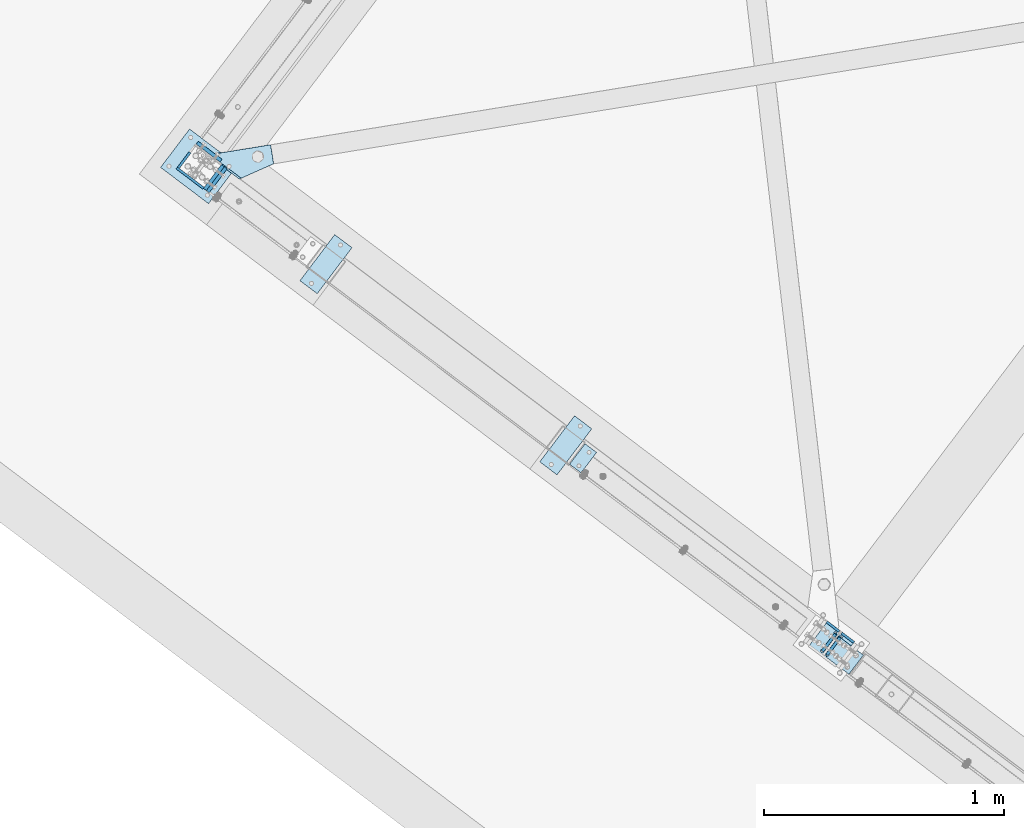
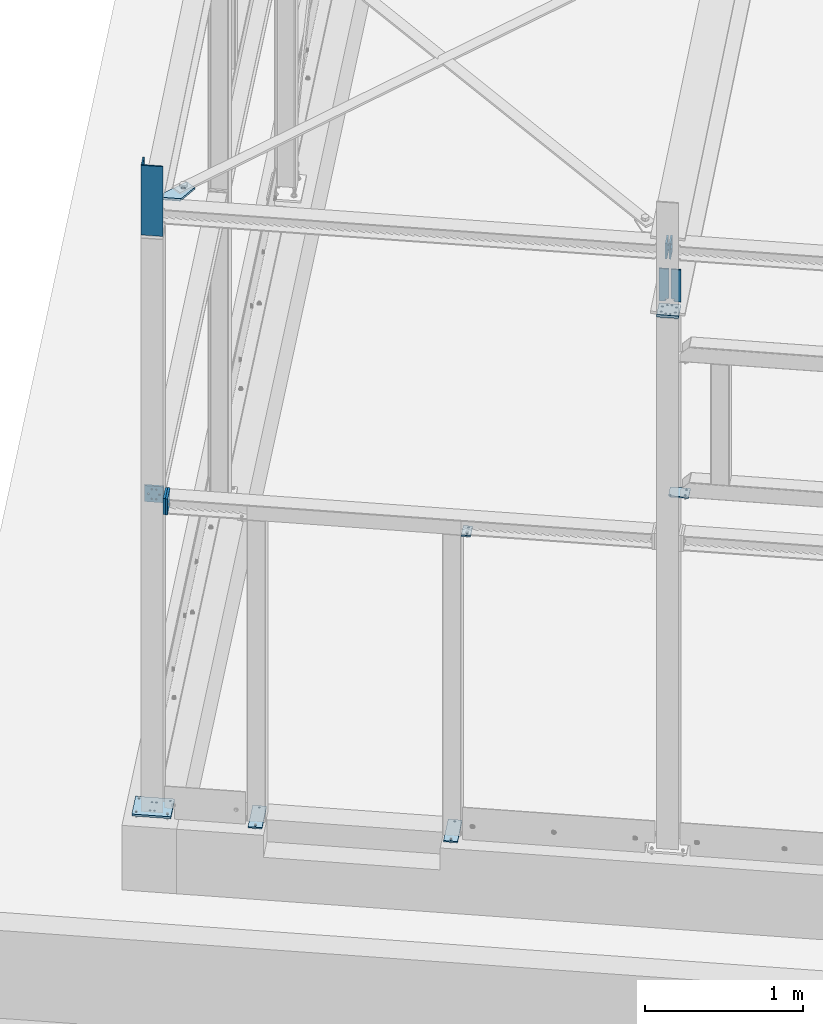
# One storey, part 51 of 476: 16 plates, 59 openings.
"""IFC2X3 building model written with IfcOpenShell, lengths in millimetres."""

import ifcopenshell
import ifcopenshell.guid

model = None  # the IFC model being written
_history = None  # IfcOwnerHistory: only IFC2X3 demands one
_inside = {}  # id of a spatial element -> (the spatial element, [elements in it])
_under = {}  # id of a project, library or spatial element -> (it, [spatial elements below it])
_declared = {}  # id of a project -> (the project, [libraries it declares])
_typed = {}  # id of a type object -> (the type object, [elements of that type])
_made_of = {}  # id of a material, layer set ... -> (it, [elements and type objects made of it])


def new_model(schema):
    """Start an empty IFC model of exactly this schema.

    Asked for "IFC4X3", IfcOpenShell would pick the latest addendum, in which some entities
    have other attributes; the version numbers below select the first issue.
    IFC2X3 requires an IfcOwnerHistory on every rooted entity: one is made here for all.
    """
    global model, _history
    if schema == "IFC4X3":
        model = ifcopenshell.file(schema_version=(4, 3, 0, 0))
    else:
        model = ifcopenshell.file(schema=schema)
    _inside.clear()
    _under.clear()
    _declared.clear()
    _typed.clear()
    _made_of.clear()
    _history = None
    if model.schema == "IFC2X3":
        org = make("IfcOrganization", Name="unknown")
        user = make(
            "IfcPersonAndOrganization",
            ThePerson=make("IfcPerson", FamilyName="unknown"),
            TheOrganization=org,
        )
        app = make(
            "IfcApplication",
            ApplicationDeveloper=org,
            Version="unknown",
            ApplicationFullName="unknown",
            ApplicationIdentifier="unknown",
        )
        _history = make(
            "IfcOwnerHistory",
            OwningUser=user,
            OwningApplication=app,
            ChangeAction="ADDED",
            CreationDate=0,
        )
    return model


def make(cls, **values):
    """One entity of the class cls with the attributes given. An attribute that is None is left unset."""
    return model.create_entity(
        cls, **{name: value for name, value in values.items() if value is not None}
    )


def entity(cls, *values):
    """Any entity or typed value of the class cls, its attributes in the order of the schema. None: left unset."""
    e = model.create_entity(cls)
    for i, value in enumerate(values):
        if value is not None:
            e[i] = value
    return e


def rooted(cls, **values):
    """An entity with a GlobalId (a new one), such as an element, a storey or a relation."""
    return make(cls, GlobalId=ifcopenshell.guid.new(), OwnerHistory=_history, **values)


def si_unit(unit_type, name, prefix=None):
    """IfcSIUnit, for example si_unit("LENGTHUNIT", "METRE", prefix="MILLI")."""
    return make("IfcSIUnit", UnitType=unit_type, Prefix=prefix, Name=name)


def converted_unit(unit_type, name, factor, base, dimensions=None, offset=None):
    """IfcConversionBasedUnit, such as the inch: factor (a typed value) times the base unit."""
    return make(
        "IfcConversionBasedUnit"
        if offset is None
        else "IfcConversionBasedUnitWithOffset",
        ConversionOffset=offset,
        Dimensions=None
        if dimensions is None
        else entity("IfcDimensionalExponents", *dimensions),
        UnitType=unit_type,
        Name=name,
        ConversionFactor=make(
            "IfcMeasureWithUnit", ValueComponent=factor, UnitComponent=base
        ),
    )


def assignment(units):
    """IfcUnitAssignment: the units of a project."""
    return None if units is None else make("IfcUnitAssignment", Units=units)


def point(xyz):
    """IfcCartesianPoint."""
    return None if xyz is None else make("IfcCartesianPoint", Coordinates=xyz)


def direction(xyz):
    """IfcDirection."""
    return None if xyz is None else make("IfcDirection", DirectionRatios=xyz)


def frame(location, z_axis=None, x_axis=None):
    """IfcAxis2Placement3D, a coordinate frame: its origin and axes. An axis left out is left unset."""
    return make(
        "IfcAxis2Placement3D",
        Location=point(location),
        Axis=direction(z_axis),
        RefDirection=direction(x_axis),
    )


def frame_2d(location, x_axis=None):
    """IfcAxis2Placement2D, a coordinate frame in the plane: its origin and x axis."""
    return make(
        "IfcAxis2Placement2D", Location=point(location), RefDirection=direction(x_axis)
    )


def origin():
    """The frame at (0, 0, 0) with its axes left unset."""
    return frame((0.0, 0.0, 0.0))


def origin_with_axes():
    """The frame at (0, 0, 0) with the z axis (0, 0, 1) and the x axis (1, 0, 0) written out."""
    return frame((0.0, 0.0, 0.0), z_axis=(0.0, 0.0, 1.0), x_axis=(1.0, 0.0, 0.0))


def origin_2d_with_axis():
    """The frame at (0, 0) in the plane with the x axis (1, 0) written out."""
    return frame_2d((0.0, 0.0), x_axis=(1.0, 0.0))


def place(relative_to, where):
    """IfcLocalPlacement: puts the frame where relative to a parent placement (None: the world)."""
    return make(
        "IfcLocalPlacement", PlacementRelTo=relative_to, RelativePlacement=where
    )


def context(
    kind, dimensions, precision=None, world=None, true_north=None, identifier=None
):
    """IfcGeometricRepresentationContext, for example the 3D "Model" context."""
    return make(
        "IfcGeometricRepresentationContext",
        ContextIdentifier=identifier,
        ContextType=kind,
        CoordinateSpaceDimension=dimensions,
        Precision=precision,
        WorldCoordinateSystem=world,
        TrueNorth=true_north,
    )


def project(units=None, contexts=None):
    """IfcProject with its units and contexts."""
    return rooted(
        "IfcProject",
        Name="project",
        RepresentationContexts=contexts,
        UnitsInContext=assignment(units),
    )


def spatial(cls, under=None, at=None, **own):
    """A site, building, storey or space (cls), placed at a placement, below another one or the project."""
    s = rooted(cls, ObjectPlacement=at, **own)
    if under is not None:
        _under.setdefault(under.id(), (under, []))[1].append(s)
    return s


def polyline(points):
    """IfcPolyline through the points."""
    return make("IfcPolyline", Points=[point(p) for p in points])


def circle_curve(where, radius):
    """IfcCircle in the frame where."""
    return make("IfcCircle", Position=where, Radius=radius)


def line_curve(start, along, magnitude):
    """IfcLine from a point along a vector."""
    return make(
        "IfcLine",
        Pnt=point(start),
        Dir=make("IfcVector", Orientation=direction(along), Magnitude=magnitude),
    )


def trimmed(basis, trim1, trim2, sense, master):
    """IfcTrimmedCurve: the piece of a basis curve between two trims."""
    return make(
        "IfcTrimmedCurve",
        BasisCurve=basis,
        Trim1=trim1,
        Trim2=trim2,
        SenseAgreement=sense,
        MasterRepresentation=master,
    )


def segment(curve, same_sense, transition):
    """IfcCompositeCurveSegment."""
    return make(
        "IfcCompositeCurveSegment",
        Transition=transition,
        SameSense=same_sense,
        ParentCurve=curve,
    )


def composite_curve(segments, self_intersect=None):
    """IfcCompositeCurve: segments joined end to end."""
    return make("IfcCompositeCurve", Segments=segments, SelfIntersect=self_intersect)


def profile(cls, at=None, kind="AREA", **sizes):
    """A parametric profile (cls). Its sizes go by their IFC names, for example OverallWidth=200.0."""
    return make(cls, ProfileType=kind, Position=at, **sizes)


def circle(**sizes):
    """IfcCircleProfileDef."""
    return profile("IfcCircleProfileDef", **sizes)


def outline(outer, holes=None, kind="AREA"):
    """IfcArbitraryClosedProfileDef: a profile drawn as a closed curve; with holes, ...WithVoids."""
    if holes is None:
        return make("IfcArbitraryClosedProfileDef", ProfileType=kind, OuterCurve=outer)
    return make(
        "IfcArbitraryProfileDefWithVoids",
        ProfileType=kind,
        OuterCurve=outer,
        InnerCurves=holes,
    )


def extrude(swept, where, along, depth):
    """IfcExtrudedAreaSolid: the profile swept, set in the frame where, extruded along a direction by depth."""
    return make(
        "IfcExtrudedAreaSolid",
        SweptArea=swept,
        Position=where,
        ExtrudedDirection=direction(along),
        Depth=depth,
    )


def shape(context_of_items, identifier, shape_type, items):
    """IfcShapeRepresentation: the items that make up one representation, for example the "Body"."""
    return make(
        "IfcShapeRepresentation",
        ContextOfItems=context_of_items,
        RepresentationIdentifier=identifier,
        RepresentationType=shape_type,
        Items=items,
    )


def material(Name=None, Category=None):
    """IfcMaterial."""
    return make("IfcMaterial", Name=Name, Category=Category)


def layer(
    of_material, thickness, ventilated=None, Name=None, Category=None, Priority=None
):
    """IfcMaterialLayer: one layer of a wall or slab, of a material (None: an air gap)."""
    return make(
        "IfcMaterialLayer",
        Material=of_material,
        LayerThickness=thickness,
        IsVentilated=ventilated,
        Name=Name,
        Category=Category,
        Priority=Priority,
    )


def layer_set(layers, Name=None):
    """IfcMaterialLayerSet."""
    return make("IfcMaterialLayerSet", MaterialLayers=layers, LayerSetName=Name)


def made_of(thing, what):
    """Note that an element or type object is made of a material, layer set ...; save() writes the relation."""
    if what is not None:
        _made_of.setdefault(what.id(), (what, []))[1].append(thing)
    return thing


def element(
    cls,
    number,
    at=None,
    inside=None,
    cuts=None,
    type_object=None,
    material=None,
    context=None,
    identifier="Body",
    shape_type=None,
    held_by="IfcProductDefinitionShape",
    body=None,
    shapes=None,
    **own,
):
    """One element of the class cls, such as IfcWall. Its Tag is "e" and its number.

    at: its placement. inside: the storey or other place that contains it. cuts: it is an
    opening in that element (IfcRelVoidsElement). A single representation is given by context,
    identifier, shape_type and body (its items); several are given by shapes. held_by: the class
    of the entity that holds the representations. save() writes the other relations.
    """
    e = rooted(cls, Tag="e%d" % number, ObjectPlacement=at, **own)
    if body is not None:
        shapes = [shape(context, identifier, shape_type, body)]
    if shapes is not None:
        e.Representation = make(held_by, Representations=shapes)
    if inside is not None:
        _inside.setdefault(inside.id(), (inside, []))[1].append(e)
    if cuts is not None:
        rooted(
            "IfcRelVoidsElement", RelatingBuildingElement=cuts, RelatedOpeningElement=e
        )
    if type_object is not None:
        _typed.setdefault(type_object.id(), (type_object, []))[1].append(e)
    return made_of(e, material)


def aggregate(whole, parts):
    """IfcRelAggregates: a whole, such as a stair, and the parts it consists of."""
    return rooted("IfcRelAggregates", RelatingObject=whole, RelatedObjects=parts)


def save(model, path):
    """Write the relations noted so far, then the file.

    IfcRelAggregates (storeys below a building ...), IfcRelContainedInSpatialStructure (elements
    in a storey), IfcRelDefinesByType, IfcRelAssociatesMaterial and IfcRelDeclares: one each for
    every whole, place, type object, material and project.
    """
    for whole, parts in _under.values():
        aggregate(whole, parts)
    for where, things in _inside.values():
        rooted(
            "IfcRelContainedInSpatialStructure",
            RelatedElements=things,
            RelatingStructure=where,
        )
    for kind, things in _typed.values():
        rooted("IfcRelDefinesByType", RelatedObjects=things, RelatingType=kind)
    for what, things in _made_of.values():
        rooted("IfcRelAssociatesMaterial", RelatedObjects=things, RelatingMaterial=what)
    for by, libraries in _declared.values():
        rooted("IfcRelDeclares", RelatingContext=by, RelatedDefinitions=libraries)
    model.write(path)


model = new_model("IFC2X3")

# Units and contexts
model_context = context("Model", 3, precision=1e-09, world=origin_with_axes())
ifc_project = project(units=[si_unit("LENGTHUNIT", "METRE", prefix="MILLI"), si_unit("AREAUNIT", "SQUARE_METRE"), si_unit("VOLUMEUNIT", "CUBIC_METRE"), converted_unit("PLANEANGLEUNIT", "DEGREE", entity("IfcPlaneAngleMeasure", 0.01745329), si_unit("PLANEANGLEUNIT", "RADIAN"), dimensions=[0, 0, 0, 0, 0, 0, 0])], contexts=[model_context])

# Site, building, storey
site_placement = place(None, origin_with_axes())
site = spatial("IfcSite", under=ifc_project, at=site_placement, Name="mKR Teilneubau & Sanierung BA1 - Ostfildern", CompositionType="ELEMENT")
building_placement = place(site_placement, origin_with_axes())
building = spatial("IfcBuilding", under=site, at=building_placement, Name="Struktur 1", CompositionType="ELEMENT")
storey_placement = place(building_placement, origin_with_axes())
storey = spatial("IfcBuildingStorey", under=building, at=storey_placement, Name="Default Storey", CompositionType="ELEMENT", Elevation=0.0)

# Plate, openings
ifc_material = material(Name="S235JR")
ifc_layer_1 = layer(ifc_material, 15.0)
ifc_layer_set_1 = layer_set([ifc_layer_1], Name="S235JR")
plate_1_placement = place(None, frame((295.248541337, 69.299327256, 5216.096658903), z_axis=(0.018098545, 0.02396011, -0.999549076), x_axis=(0.602462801, 0.797581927, 0.030027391)))
plate_1 = element("IfcPlate", 1, at=plate_1_placement, inside=storey, material=ifc_layer_set_1, Name="-", ObjectType="-", context=model_context, shape_type="SweptSolid", body=[
    extrude(outline(polyline([(0.0, 0.0), (16.761939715, 0.0), (192.636873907, 167.974256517), (137.382787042, 225.827096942), (1.572e-05, 149.999963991), (0.0, 0.0)])), origin_with_axes(), (0.0, 0.0, 1.0), 15.0),
])
opening_1_placement = place(plate_1_placement, frame((1.6183e-05, 154.416490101, 0.0), z_axis=(-1.05e-07, -1.0, 0.0), x_axis=(1.0, -1.05e-07, 0.0)))
element("IfcOpeningElement", 2, at=opening_1_placement, cuts=plate_1, ObjectType="Opening", context=model_context, shape_type="SweptSolid", body=[
    extrude(outline(polyline([(0.0, 0.0), (8.0, 0.0), (0.0, 8.0), (0.0, 0.0)])), origin(), (0.0, 0.0, 1.0), 154.437489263),
])
opening_2_placement = place(plate_1_placement, frame((132.106849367, 165.475673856, 15.499709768), z_axis=(7.613e-06, 7.271e-06, 1.0), x_axis=(1.0, 0.0, -7.613e-06)))
element("IfcOpeningElement", 3, at=opening_2_placement, cuts=plate_1, ObjectType="Opening", context=model_context, shape_type="SweptSolid", body=[
    extrude(circle(Radius=14.501, at=frame_2d((-10.486598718, -10.015500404), x_axis=(1.0, 0.0))), origin(), (0.0, 0.0, -1.0), 16.000000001),
])

# Plate, opening
ifc_layer_2 = layer(ifc_material, 10.0)
ifc_layer_set_2 = layer_set([ifc_layer_2], Name="S235JR")
plate_2_placement = place(None, frame((214.213128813, 86.949071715, 5472.548796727), z_axis=(0.798017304, -0.602634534, 0.0), x_axis=(-0.602634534, -0.798017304, 0.0)))
plate_2 = element("IfcPlate", 4, at=plate_2_placement, inside=storey, material=ifc_layer_set_2, Name="-", ObjectType="-", context=model_context, shape_type="SweptSolid", body=[
    extrude(outline(polyline([(0.0, -75.000000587), (80.0, -75.000000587), (80.0, 200.0), (0.0, 197.595559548), (0.0, -75.000000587)])), origin_with_axes(), (0.0, 0.0, -1.0), 10.0),
])
opening_3_placement = place(plate_2_placement, frame((80.0, 200.0, 0.01), z_axis=(0.0, 0.0, 1.0), x_axis=(-0.999548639, -0.03004194, 0.0)))
element("IfcOpeningElement", 5, at=opening_3_placement, cuts=plate_2, ObjectType="Opening", context=model_context, shape_type="SweptSolid", body=[
    extrude(outline(polyline([(0.0, 0.0), (20.0, 0.0), (0.600838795, 19.990972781), (0.0, 0.0)])), origin(), (0.0, 0.0, -1.0), 10.02),
])

# Plate, openings
plate_3_placement = place(None, frame((1918.732120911, -1167.987627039, 2855.0), z_axis=(0.0, 0.0, 1.0), x_axis=(-0.797941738, 0.602734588, 0.0)))
plate_3 = element("IfcPlate", 6, at=plate_3_placement, inside=storey, material=ifc_layer_set_2, Name="Endplate", ObjectType="Endplate", context=model_context, shape_type="SweptSolid", body=[
    extrude(outline(polyline([(20.0, 2.5), (80.0, 2.5), (80.0, 109.5), (20.0, 109.5), (20.0, 2.5)])), origin_with_axes(), (0.0, 0.0, -1.0), 10.0),
])
opening_4_placement = place(plate_3_placement, frame((38.499, 21.0, -10.5), z_axis=(0.0, 0.0, -1.0), x_axis=(-1.0, 0.0, 0.0)))
element("IfcOpeningElement", 7, at=opening_4_placement, cuts=plate_3, ObjectType="Opening", context=model_context, shape_type="SweptSolid", body=[
    extrude(circle(Radius=6.501, at=frame_2d((-6.501, 0.0), x_axis=(1.0, 0.0))), origin(), (0.0, 0.0, -1.0), 11.0),
])
opening_5_placement = place(plate_3_placement, frame((38.499, 91.0, -10.5), z_axis=(0.0, 0.0, -1.0), x_axis=(-1.0, 0.0, 0.0)))
element("IfcOpeningElement", 8, at=opening_5_placement, cuts=plate_3, ObjectType="Opening", context=model_context, shape_type="SweptSolid", body=[
    extrude(circle(Radius=6.501, at=frame_2d((-6.501, 0.0), x_axis=(1.0, 0.0))), origin(), (0.0, 0.0, -1.0), 11.0),
])

plate_4_placement = place(None, frame((208.458938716, 187.173084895, 540.0), z_axis=(0.0, 0.0, -1.0), x_axis=(0.797941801, -0.602734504, 0.0)))
plate_4 = element("IfcPlate", 9, at=plate_4_placement, inside=storey, material=ifc_layer_set_1, Name="Baseplate", ObjectType="Baseplate", context=model_context, shape_type="SweptSolid", body=[
    extrude(outline(polyline([(0.0, 0.0), (250.0, 0.0), (250.0, 200.0), (0.0, 200.0), (0.0, 0.0)])), origin_with_axes(), (0.0, 0.0, 1.0), 15.0),
])
opening_6_placement = place(plate_4_placement, frame((139.75, 146.0, 15.5), z_axis=(0.0, 0.0, -1.0), x_axis=(0.0, 1.0, 0.0)))
element("IfcOpeningElement", 10, at=opening_6_placement, cuts=plate_4, ObjectType="Opening", context=model_context, shape_type="SweptSolid", body=[
    extrude(circle(Radius=6.001, at=origin_2d_with_axis()), origin(), (0.0, 0.0, 1.0), 16.0),
])
opening_7_placement = place(plate_4_placement, frame((139.75, 54.0, 15.5), z_axis=(0.0, 0.0, -1.0), x_axis=(0.0, 1.0, 0.0)))
element("IfcOpeningElement", 11, at=opening_7_placement, cuts=plate_4, ObjectType="Opening", context=model_context, shape_type="SweptSolid", body=[
    extrude(circle(Radius=6.001, at=origin_2d_with_axis()), origin(), (0.0, 0.0, 1.0), 16.0),
])
opening_8_placement = place(plate_4_placement, frame((110.25, 54.0, 15.5), z_axis=(0.0, 0.0, -1.0), x_axis=(0.0, 1.0, 0.0)))
element("IfcOpeningElement", 12, at=opening_8_placement, cuts=plate_4, ObjectType="Opening", context=model_context, shape_type="SweptSolid", body=[
    extrude(circle(Radius=6.001, at=origin_2d_with_axis()), origin(), (0.0, 0.0, 1.0), 16.0),
])
opening_9_placement = place(plate_4_placement, frame((110.25, 146.0, 15.5), z_axis=(0.0, 0.0, -1.0), x_axis=(0.0, 1.0, 0.0)))
element("IfcOpeningElement", 13, at=opening_9_placement, cuts=plate_4, ObjectType="Opening", context=model_context, shape_type="SweptSolid", body=[
    extrude(circle(Radius=6.001, at=origin_2d_with_axis()), origin(), (0.0, 0.0, 1.0), 16.0),
])
opening_10_placement = place(plate_4_placement, frame((125.0, 100.0, 15.5), z_axis=(0.0, 0.0, -1.0), x_axis=(1.0, 0.0, 0.0)))
element("IfcOpeningElement", 14, at=opening_10_placement, cuts=plate_4, ObjectType="Opening", context=model_context, shape_type="SweptSolid", body=[
    extrude(circle(Radius=6.001, at=frame_2d((100.0, 75.0), x_axis=(1.0, 0.0))), origin(), (0.0, 0.0, 1.0), 16.0),
])
opening_11_placement = place(plate_4_placement, frame((125.0, 100.0, 15.5), z_axis=(0.0, 0.0, -1.0), x_axis=(1.0, 0.0, 0.0)))
element("IfcOpeningElement", 15, at=opening_11_placement, cuts=plate_4, ObjectType="Opening", context=model_context, shape_type="SweptSolid", body=[
    extrude(circle(Radius=6.001, at=frame_2d((-100.0, 75.0), x_axis=(1.0, 0.0))), origin(), (0.0, 0.0, 1.0), 16.0),
])
opening_12_placement = place(plate_4_placement, frame((125.0, 100.0, 15.5), z_axis=(0.0, 0.0, -1.0), x_axis=(1.0, 0.0, 0.0)))
element("IfcOpeningElement", 16, at=opening_12_placement, cuts=plate_4, ObjectType="Opening", context=model_context, shape_type="SweptSolid", body=[
    extrude(circle(Radius=6.001, at=frame_2d((100.0, -75.0), x_axis=(1.0, 0.0))), origin(), (0.0, 0.0, 1.0), 16.0),
])
opening_13_placement = place(plate_4_placement, frame((125.0, 100.0, 15.5), z_axis=(0.0, 0.0, -1.0), x_axis=(1.0, 0.0, 0.0)))
element("IfcOpeningElement", 17, at=opening_13_placement, cuts=plate_4, ObjectType="Opening", context=model_context, shape_type="SweptSolid", body=[
    extrude(circle(Radius=6.001, at=frame_2d((-100.0, -75.0), x_axis=(1.0, 0.0))), origin(), (0.0, 0.0, 1.0), 16.0),
])

plate_5_placement = place(None, frame((1736.846368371, -1251.165586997, 525.0), z_axis=(0.0, 0.0, -1.0), x_axis=(-0.797941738, 0.602734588, 0.0)))
plate_5 = element("IfcPlate", 18, at=plate_5_placement, inside=storey, material=ifc_layer_set_2, Name="Baseplate", ObjectType="Baseplate", context=model_context, shape_type="SweptSolid", body=[
    extrude(outline(polyline([(0.0, 0.0), (90.0, 0.0), (90.0, 240.0), (0.0, 240.0), (0.0, 0.0)])), origin_with_axes(), (0.0, 0.0, 1.0), 10.0),
])
opening_14_placement = place(plate_5_placement, frame((45.0, 120.0, 10.5), z_axis=(0.0, 0.0, -1.0), x_axis=(1.0, 0.0, 0.0)))
element("IfcOpeningElement", 19, at=opening_14_placement, cuts=plate_5, ObjectType="Opening", context=model_context, shape_type="SweptSolid", body=[
    extrude(circle(Radius=7.001, at=frame_2d((0.0, 100.0), x_axis=(1.0, 0.0))), origin(), (0.0, 0.0, 1.0), 11.0),
])
opening_15_placement = place(plate_5_placement, frame((45.0, 120.0, 10.5), z_axis=(0.0, 0.0, -1.0), x_axis=(1.0, 0.0, 0.0)))
element("IfcOpeningElement", 20, at=opening_15_placement, cuts=plate_5, ObjectType="Opening", context=model_context, shape_type="SweptSolid", body=[
    extrude(circle(Radius=7.001, at=frame_2d((0.0, -100.0), x_axis=(1.0, 0.0))), origin(), (0.0, 0.0, 1.0), 11.0),
])

plate_6_placement = place(None, frame((739.417481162, -497.746039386, 525.0), z_axis=(0.0, 0.0, -1.0), x_axis=(-0.797941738, 0.602734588, 0.0)))
plate_6 = element("IfcPlate", 21, at=plate_6_placement, inside=storey, material=ifc_layer_set_2, Name="Baseplate", ObjectType="Baseplate", context=model_context, shape_type="SweptSolid", body=[
    extrude(outline(polyline([(0.0, 0.0), (90.0, 0.0), (90.0, 240.0), (0.0, 240.0), (0.0, 0.0)])), origin_with_axes(), (0.0, 0.0, 1.0), 10.0),
])
opening_16_placement = place(plate_6_placement, frame((45.0, 120.0, 10.5), z_axis=(0.0, 0.0, -1.0), x_axis=(1.0, 0.0, 0.0)))
element("IfcOpeningElement", 22, at=opening_16_placement, cuts=plate_6, ObjectType="Opening", context=model_context, shape_type="SweptSolid", body=[
    extrude(circle(Radius=7.001, at=frame_2d((0.0, 100.0), x_axis=(1.0, 0.0))), origin(), (0.0, 0.0, 1.0), 11.0),
])
opening_17_placement = place(plate_6_placement, frame((45.0, 120.0, 10.5), z_axis=(0.0, 0.0, -1.0), x_axis=(1.0, 0.0, 0.0)))
element("IfcOpeningElement", 23, at=opening_17_placement, cuts=plate_6, ObjectType="Opening", context=model_context, shape_type="SweptSolid", body=[
    extrude(circle(Radius=7.001, at=frame_2d((0.0, -100.0), x_axis=(1.0, 0.0))), origin(), (0.0, 0.0, 1.0), 11.0),
])

plate_7_placement = place(None, frame((327.722409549, -28.236337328, 2912.000000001), z_axis=(-0.797941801, 0.602734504, 0.0), x_axis=(0.0, 0.0, -1.0)))
plate_7 = element("IfcPlate", 24, at=plate_7_placement, inside=storey, material=ifc_layer_set_1, Name="Endplate#1", ObjectType="Endplate#1", context=model_context, shape_type="SweptSolid", body=[
    extrude(outline(polyline([(-62.0, -62.0), (62.0, -62.0), (62.0, 62.0), (-62.0, 62.0), (-62.0, -62.0)])), origin_with_axes(), (0.0, 0.0, 1.0), 15.0),
])
opening_18_placement = place(plate_7_placement, frame((37.0, 14.5, 15.5), z_axis=(0.0, 0.0, -1.0), x_axis=(-1.0, 0.0, 0.0)))
element("IfcOpeningElement", 25, at=opening_18_placement, cuts=plate_7, ObjectType="Opening", context=model_context, shape_type="SweptSolid", body=[
    extrude(circle(Radius=6.001, at=origin_2d_with_axis()), origin(), (0.0, 0.0, 1.0), 16.0),
])
opening_19_placement = place(plate_7_placement, frame((-37.0, 14.5, 15.5), z_axis=(0.0, 0.0, -1.0), x_axis=(-1.0, 0.0, 0.0)))
element("IfcOpeningElement", 26, at=opening_19_placement, cuts=plate_7, ObjectType="Opening", context=model_context, shape_type="SweptSolid", body=[
    extrude(circle(Radius=6.001, at=origin_2d_with_axis()), origin(), (0.0, 0.0, 1.0), 16.0),
])
opening_20_placement = place(plate_7_placement, frame((-37.0, -14.5, 15.5), z_axis=(0.0, 0.0, -1.0), x_axis=(-1.0, 0.0, 0.0)))
element("IfcOpeningElement", 27, at=opening_20_placement, cuts=plate_7, ObjectType="Opening", context=model_context, shape_type="SweptSolid", body=[
    extrude(circle(Radius=6.001, at=origin_2d_with_axis()), origin(), (0.0, 0.0, 1.0), 16.0),
])
opening_21_placement = place(plate_7_placement, frame((37.0, -14.5, 15.5), z_axis=(0.0, 0.0, -1.0), x_axis=(-1.0, 0.0, 0.0)))
element("IfcOpeningElement", 28, at=opening_21_placement, cuts=plate_7, ObjectType="Opening", context=model_context, shape_type="SweptSolid", body=[
    extrude(circle(Radius=6.001, at=origin_2d_with_axis()), origin(), (0.0, 0.0, 1.0), 16.0),
])
opening_22_placement = place(plate_7_placement, frame((0.0, 30.0, 15.5), z_axis=(0.0, 0.0, -1.0), x_axis=(-1.0, 0.0, 0.0)))
element("IfcOpeningElement", 29, at=opening_22_placement, cuts=plate_7, ObjectType="Opening", context=model_context, shape_type="SweptSolid", body=[
    extrude(circle(Radius=7.001, at=origin_2d_with_axis()), origin(), (0.0, 0.0, 1.0), 16.0),
])
opening_23_placement = place(plate_7_placement, frame((0.0, -30.0, 15.5), z_axis=(0.0, 0.0, -1.0), x_axis=(0.0, -1.0, 0.0)))
element("IfcOpeningElement", 30, at=opening_23_placement, cuts=plate_7, ObjectType="Opening", context=model_context, shape_type="SweptSolid", body=[
    extrude(circle(Radius=7.001, at=origin_2d_with_axis()), origin(), (0.0, 0.0, 1.0), 16.0),
])

plate_8_placement = place(None, frame((303.784139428, -10.154323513, 2912.000000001), z_axis=(0.797941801, -0.602734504, 0.0), x_axis=(-0.602734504, -0.797941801, 0.0)))
plate_8 = element("IfcPlate", 31, at=plate_8_placement, inside=storey, material=ifc_layer_set_1, Name="T-plate", ObjectType="T-plate", context=model_context, shape_type="SweptSolid", body=[
    extrude(outline(polyline([(-62.0, -62.0), (62.0, -62.0), (62.0, 62.0), (-62.0, 62.0), (-62.0, -62.0)])), origin_with_axes(), (0.0, 0.0, 1.0), 15.0),
])
opening_24_placement = place(plate_8_placement, frame((29.999973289, 0.0, -0.5), z_axis=(0.0, 0.0, 1.0), x_axis=(0.0, -1.0, 0.0)))
element("IfcOpeningElement", 32, at=opening_24_placement, cuts=plate_8, ObjectType="Opening", context=model_context, shape_type="SweptSolid", body=[
    extrude(circle(Radius=7.001, at=origin_2d_with_axis()), origin(), (0.0, 0.0, 1.0), 16.0),
])
opening_25_placement = place(plate_8_placement, frame((-30.000026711, 0.0, -0.5), z_axis=(0.0, 0.0, 1.0), x_axis=(-1.0, 0.0, 0.0)))
element("IfcOpeningElement", 33, at=opening_25_placement, cuts=plate_8, ObjectType="Opening", context=model_context, shape_type="SweptSolid", body=[
    extrude(circle(Radius=7.001, at=origin_2d_with_axis()), origin(), (0.0, 0.0, 1.0), 16.0),
])

plate_9_placement = place(None, frame((294.258261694, 99.178932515, 2912.000000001), z_axis=(-0.602734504, -0.797941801, 0.0), x_axis=(0.0, 0.0, -1.0)))
plate_9 = element("IfcPlate", 34, at=plate_9_placement, inside=storey, material=ifc_layer_set_1, Name="Endplate#1", ObjectType="Endplate#1", context=model_context, shape_type="SweptSolid", body=[
    extrude(outline(polyline([(-62.0, -62.0), (62.0, -62.0), (62.0, 62.0), (-62.0, 62.0), (-62.0, -62.0)])), origin_with_axes(), (0.0, 0.0, 1.0), 15.0),
])
opening_26_placement = place(plate_9_placement, frame((-37.0, 14.5, 15.5), z_axis=(0.0, 0.0, -1.0), x_axis=(-1.0, 0.0, 0.0)))
element("IfcOpeningElement", 35, at=opening_26_placement, cuts=plate_9, ObjectType="Opening", context=model_context, shape_type="SweptSolid", body=[
    extrude(circle(Radius=6.001, at=origin_2d_with_axis()), origin(), (0.0, 0.0, 1.0), 16.0),
])
opening_27_placement = place(plate_9_placement, frame((37.0, 14.5, 15.5), z_axis=(0.0, 0.0, -1.0), x_axis=(-1.0, 0.0, 0.0)))
element("IfcOpeningElement", 36, at=opening_27_placement, cuts=plate_9, ObjectType="Opening", context=model_context, shape_type="SweptSolid", body=[
    extrude(circle(Radius=6.001, at=origin_2d_with_axis()), origin(), (0.0, 0.0, 1.0), 16.0),
])
opening_28_placement = place(plate_9_placement, frame((37.0, -14.5, 15.5), z_axis=(0.0, 0.0, -1.0), x_axis=(-1.0, 0.0, 0.0)))
element("IfcOpeningElement", 37, at=opening_28_placement, cuts=plate_9, ObjectType="Opening", context=model_context, shape_type="SweptSolid", body=[
    extrude(circle(Radius=6.001, at=origin_2d_with_axis()), origin(), (0.0, 0.0, 1.0), 16.0),
])
opening_29_placement = place(plate_9_placement, frame((-37.0, -14.5, 15.5), z_axis=(0.0, 0.0, -1.0), x_axis=(-1.0, 0.0, 0.0)))
element("IfcOpeningElement", 38, at=opening_29_placement, cuts=plate_9, ObjectType="Opening", context=model_context, shape_type="SweptSolid", body=[
    extrude(circle(Radius=6.001, at=origin_2d_with_axis()), origin(), (0.0, 0.0, 1.0), 16.0),
])
opening_30_placement = place(plate_9_placement, frame((0.0, -34.9999983, 15.5), z_axis=(0.0, 0.0, -1.0), x_axis=(0.0, -1.0, 0.0)))
element("IfcOpeningElement", 39, at=opening_30_placement, cuts=plate_9, ObjectType="Opening", context=model_context, shape_type="SweptSolid", body=[
    extrude(circle(Radius=7.001, at=origin_2d_with_axis()), origin(), (0.0, 0.0, 1.0), 16.0),
])
opening_31_placement = place(plate_9_placement, frame((0.0, 35.0000017, 15.5), z_axis=(0.0, 0.0, -1.0), x_axis=(-1.0, 0.0, 0.0)))
element("IfcOpeningElement", 40, at=opening_31_placement, cuts=plate_9, ObjectType="Opening", context=model_context, shape_type="SweptSolid", body=[
    extrude(circle(Radius=7.001, at=origin_2d_with_axis()), origin(), (0.0, 0.0, 1.0), 16.0),
])

ifc_layer_3 = layer(ifc_material, 20.0)
ifc_layer_set_3 = layer_set([ifc_layer_3], Name="S235JR")
plate_10_placement = place(None, frame((2785.417867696, -1961.761006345, 4652.118481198), z_axis=(-0.018107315, -0.023971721, 0.999548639), x_axis=(0.797941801, -0.602734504, 0.0)))
plate_10 = element("IfcPlate", 41, at=plate_10_placement, inside=storey, material=ifc_layer_set_3, Name="Endplate", ObjectType="Endplate", context=model_context, shape_type="SweptSolid", body=[
    extrude(outline(polyline([(0.0, 0.0), (140.0, 0.0), (140.0, 123.060058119), (0.0, 123.060058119), (0.0, 0.0)])), origin_with_axes(), (0.0, 0.0, 1.0), 20.0),
])
opening_32_placement = place(plate_10_placement, frame((84.75, 15.503838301, 20.5), z_axis=(0.0, 0.0, -1.0), x_axis=(0.0, 1.0, 0.0)))
element("IfcOpeningElement", 42, at=opening_32_placement, cuts=plate_10, ObjectType="Opening", context=model_context, shape_type="SweptSolid", body=[
    extrude(circle(Radius=6.001, at=origin_2d_with_axis()), origin(), (0.0, 0.0, 1.0), 21.0),
])
opening_33_placement = place(plate_10_placement, frame((84.75, 107.556219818, 20.5), z_axis=(0.0, 0.0, -1.0), x_axis=(0.0, 1.0, 0.0)))
element("IfcOpeningElement", 43, at=opening_33_placement, cuts=plate_10, ObjectType="Opening", context=model_context, shape_type="SweptSolid", body=[
    extrude(circle(Radius=6.001, at=origin_2d_with_axis()), origin(), (0.0, 0.0, 1.0), 21.0),
])
opening_34_placement = place(plate_10_placement, frame((55.25, 107.556219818, 20.5), z_axis=(0.0, 0.0, -1.0), x_axis=(0.0, 1.0, 0.0)))
element("IfcOpeningElement", 44, at=opening_34_placement, cuts=plate_10, ObjectType="Opening", context=model_context, shape_type="SweptSolid", body=[
    extrude(circle(Radius=6.001, at=origin_2d_with_axis()), origin(), (0.0, 0.0, 1.0), 21.0),
])
opening_35_placement = place(plate_10_placement, frame((55.25, 15.503838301, 20.5), z_axis=(0.0, 0.0, -1.0), x_axis=(0.0, 1.0, 0.0)))
element("IfcOpeningElement", 45, at=opening_35_placement, cuts=plate_10, ObjectType="Opening", context=model_context, shape_type="SweptSolid", body=[
    extrude(circle(Radius=6.001, at=origin_2d_with_axis()), origin(), (0.0, 0.0, 1.0), 21.0),
])
opening_36_placement = place(plate_10_placement, frame((107.999, 34.03, -0.5), z_axis=(0.0, 0.0, -1.0), x_axis=(-1.0, 0.0, 0.0)))
element("IfcOpeningElement", 46, at=opening_36_placement, cuts=plate_10, ObjectType="Opening", context=model_context, shape_type="SweptSolid", body=[
    extrude(circle(Radius=7.001, at=frame_2d((-7.001, 0.0), x_axis=(1.0, 0.0))), origin(), (0.0, 0.0, -1.0), 21.0),
])
opening_37_placement = place(plate_10_placement, frame((107.999, 89.03, -0.5), z_axis=(0.0, 0.0, -1.0), x_axis=(-1.0, 0.0, 0.0)))
element("IfcOpeningElement", 47, at=opening_37_placement, cuts=plate_10, ObjectType="Opening", context=model_context, shape_type="SweptSolid", body=[
    extrude(circle(Radius=7.001, at=frame_2d((-7.001, 0.0), x_axis=(1.0, 0.0))), origin(), (0.0, 0.0, -1.0), 21.0),
])
opening_38_placement = place(plate_10_placement, frame((17.999, 34.03, -0.5), z_axis=(0.0, 0.0, -1.0), x_axis=(-1.0, 0.0, 0.0)))
element("IfcOpeningElement", 48, at=opening_38_placement, cuts=plate_10, ObjectType="Opening", context=model_context, shape_type="SweptSolid", body=[
    extrude(circle(Radius=7.001, at=frame_2d((-7.001, 0.0), x_axis=(1.0, 0.0))), origin(), (0.0, 0.0, -1.0), 21.0),
])
opening_39_placement = place(plate_10_placement, frame((17.999, 89.03, -0.5), z_axis=(0.0, 0.0, -1.0), x_axis=(-1.0, 0.0, 0.0)))
element("IfcOpeningElement", 49, at=opening_39_placement, cuts=plate_10, ObjectType="Opening", context=model_context, shape_type="SweptSolid", body=[
    extrude(circle(Radius=7.001, at=frame_2d((-7.001, 0.0), x_axis=(1.0, 0.0))), origin(), (0.0, 0.0, -1.0), 21.0),
])

plate_11_placement = place(None, frame((2907.610174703, -1906.177081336, 4696.483942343), z_axis=(0.602734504, 0.797941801, 0.0), x_axis=(-0.797941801, 0.602734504, 0.0)))
plate_11 = element("IfcPlate", 50, at=plate_11_placement, inside=storey, material=ifc_layer_set_2, Name="Stiffener#2", ObjectType="Stiffener#2", context=model_context, shape_type="SweptSolid", body=[
    extrude(outline(polyline([(0.0, 0.0), (65.0, 0.0), (65.0, 250.0), (0.0, 250.0), (0.0, 0.0)])), origin_with_axes(), (0.0, 0.0, 1.0), 10.0),
])
opening_40_placement = place(plate_11_placement, frame((0.0, 0.0, -0.01), z_axis=(0.0, 0.0, 1.0), x_axis=(1.0, 0.0, 0.0)))
element("IfcOpeningElement", 51, at=opening_40_placement, cuts=plate_11, ObjectType="Opening", context=model_context, shape_type="SweptSolid", body=[
    extrude(outline(composite_curve([segment(trimmed(line_curve((0.0, 0.0), (1.0, 0.0), 25.0), [point((0.0, 0.0))], [point((25.0, 0.0))], True, "CARTESIAN"), True, "CONTINUOUS"), segment(trimmed(circle_curve(frame_2d((25.0, 25.0), x_axis=(-1.0, 0.0)), 25.0), [point((25.0, 0.0))], [point((0.0, 25.0))], False, "CARTESIAN"), True, "CONTINUOUS"), segment(trimmed(line_curve((0.0, 25.0), (0.0, -1.0), 25.0), [point((0.0, 25.0))], [point((0.0, 0.0))], True, "CARTESIAN"), True, "CONTINUOUS")], self_intersect=False)), origin(), (0.0, 0.0, 1.0), 10.02),
])
opening_41_placement = place(plate_11_placement, frame((24.0, 22.499322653, -0.5), z_axis=(0.0, 0.0, 1.0), x_axis=(0.0, -1.0, 0.0)))
element("IfcOpeningElement", 52, at=opening_41_placement, cuts=plate_11, ObjectType="Opening", context=model_context, shape_type="SweptSolid", body=[
    extrude(circle(Radius=7.001, at=frame_2d((7.0, -7.0), x_axis=(1.0, 0.0))), origin(), (0.0, 0.0, 1.0), 11.0),
])

plate_12_placement = place(None, frame((2969.051693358, -1952.587638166, 4696.483942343), z_axis=(0.602734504, 0.797941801, 0.0), x_axis=(-0.797941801, 0.602734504, 0.0)))
plate_12 = element("IfcPlate", 53, at=plate_12_placement, inside=storey, material=ifc_layer_set_2, Name="Stiffener#2", ObjectType="Stiffener#2", context=model_context, shape_type="SweptSolid", body=[
    extrude(outline(polyline([(0.0, 0.0), (65.0, 0.0), (65.0, 250.0), (0.0, 250.0), (0.0, 0.0)])), origin_with_axes(), (0.0, 0.0, 1.0), 10.0),
])
opening_42_placement = place(plate_12_placement, frame((0.0, 0.0, -0.01), z_axis=(0.0, 0.0, 1.0), x_axis=(1.0, 0.0, 0.0)))
element("IfcOpeningElement", 54, at=opening_42_placement, cuts=plate_12, ObjectType="Opening", context=model_context, shape_type="SweptSolid", body=[
    extrude(outline(composite_curve([segment(trimmed(line_curve((65.0, 0.0), (0.0, 1.0), 25.0), [point((65.0, 0.0))], [point((65.0, 25.0))], True, "CARTESIAN"), True, "CONTINUOUS"), segment(trimmed(circle_curve(frame_2d((40.0, 25.0), x_axis=(-1.0, 0.0)), 25.0), [point((65.0, 25.0))], [point((40.0, 0.0))], False, "CARTESIAN"), True, "CONTINUOUS"), segment(trimmed(line_curve((40.0, 0.0), (1.0, 0.0), 25.0), [point((40.0, 0.0))], [point((65.0, 0.0))], True, "CARTESIAN"), True, "CONTINUOUS")], self_intersect=False)), origin(), (0.0, 0.0, 1.0), 10.02),
])
opening_43_placement = place(plate_12_placement, frame((41.0, 22.499322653, -0.5), z_axis=(0.0, 0.0, 1.0), x_axis=(0.0, -1.0, 0.0)))
element("IfcOpeningElement", 55, at=opening_43_placement, cuts=plate_12, ObjectType="Opening", context=model_context, shape_type="SweptSolid", body=[
    extrude(circle(Radius=7.001, at=frame_2d((7.0, 7.0), x_axis=(1.0, 0.0))), origin(), (0.0, 0.0, 1.0), 11.0),
])

ifc_layer_4 = layer(ifc_material, 12.0)
ifc_layer_set_4 = layer_set([ifc_layer_4], Name="S235JR")
plate_13_placement = place(None, frame((2845.32203814, -1988.638442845, 5217.841312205), z_axis=(-0.797941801, 0.602734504, 0.0), x_axis=(0.602462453, 0.797581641, 0.030041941)))
plate_13 = element("IfcPlate", 56, at=plate_13_placement, inside=storey, material=ifc_layer_set_4, Name="Endplate", ObjectType="Endplate", context=model_context, shape_type="SweptSolid", body=[
    extrude(outline(polyline([(0.0, 0.0), (90.0, 0.0), (90.0, 124.0), (0.0, 124.0), (0.0, 0.0)])), origin_with_axes(), (0.0, 0.0, 1.0), 12.0),
])
opening_44_placement = place(plate_13_placement, frame((20.0, 62.0, -0.5), z_axis=(0.0, 0.0, 1.0), x_axis=(0.0, -1.0, 0.0)))
element("IfcOpeningElement", 57, at=opening_44_placement, cuts=plate_13, ObjectType="Opening", context=model_context, shape_type="SweptSolid", body=[
    extrude(circle(Radius=7.001, at=origin_2d_with_axis()), origin(), (0.0, 0.0, 1.0), 13.0),
])
opening_45_placement = place(plate_13_placement, frame((70.0, 62.0, -0.5), z_axis=(0.0, 0.0, 1.0), x_axis=(0.0, -1.0, 0.0)))
element("IfcOpeningElement", 58, at=opening_45_placement, cuts=plate_13, ObjectType="Opening", context=model_context, shape_type="SweptSolid", body=[
    extrude(circle(Radius=7.001, at=origin_2d_with_axis()), origin(), (0.0, 0.0, 1.0), 13.0),
])
opening_46_placement = place(plate_13_placement, frame((30.5, 99.0, -0.5), z_axis=(0.0, 0.0, 1.0), x_axis=(0.0, 1.0, 0.0)))
element("IfcOpeningElement", 59, at=opening_46_placement, cuts=plate_13, ObjectType="Opening", context=model_context, shape_type="SweptSolid", body=[
    extrude(circle(Radius=6.001, at=origin_2d_with_axis()), origin(), (0.0, 0.0, 1.0), 13.0),
])
opening_47_placement = place(plate_13_placement, frame((30.5, 25.0, -0.5), z_axis=(0.0, 0.0, 1.0), x_axis=(0.0, 1.0, 0.0)))
element("IfcOpeningElement", 60, at=opening_47_placement, cuts=plate_13, ObjectType="Opening", context=model_context, shape_type="SweptSolid", body=[
    extrude(circle(Radius=6.001, at=origin_2d_with_axis()), origin(), (0.0, 0.0, 1.0), 13.0),
])
opening_48_placement = place(plate_13_placement, frame((59.5, 25.0, -0.5), z_axis=(0.0, 0.0, 1.0), x_axis=(0.0, 1.0, 0.0)))
element("IfcOpeningElement", 61, at=opening_48_placement, cuts=plate_13, ObjectType="Opening", context=model_context, shape_type="SweptSolid", body=[
    extrude(circle(Radius=6.001, at=origin_2d_with_axis()), origin(), (0.0, 0.0, 1.0), 13.0),
])
opening_49_placement = place(plate_13_placement, frame((59.5, 99.0, -0.5), z_axis=(0.0, 0.0, 1.0), x_axis=(0.0, 1.0, 0.0)))
element("IfcOpeningElement", 62, at=opening_49_placement, cuts=plate_13, ObjectType="Opening", context=model_context, shape_type="SweptSolid", body=[
    extrude(circle(Radius=6.001, at=origin_2d_with_axis()), origin(), (0.0, 0.0, 1.0), 13.0),
])

plate_14_placement = place(None, frame((2909.118958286, -1924.088912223, 5220.545086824), z_axis=(0.797941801, -0.602734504, 0.0), x_axis=(-0.602462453, -0.797581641, -0.030041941)))
plate_14 = element("IfcPlate", 63, at=plate_14_placement, inside=storey, material=ifc_layer_set_4, Name="Endplate", ObjectType="Endplate", context=model_context, shape_type="SweptSolid", body=[
    extrude(outline(polyline([(0.0, 0.0), (90.0, 0.0), (90.0, 124.0), (0.0, 124.0), (0.0, 0.0)])), origin_with_axes(), (0.0, 0.0, 1.0), 12.0),
])
opening_50_placement = place(plate_14_placement, frame((19.999996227, 62.0, 12.5), z_axis=(0.0, 0.0, -1.0), x_axis=(0.0, -1.0, 0.0)))
element("IfcOpeningElement", 64, at=opening_50_placement, cuts=plate_14, ObjectType="Opening", context=model_context, shape_type="SweptSolid", body=[
    extrude(circle(Radius=7.001, at=origin_2d_with_axis()), origin(), (0.0, 0.0, 1.0), 13.0),
])
opening_51_placement = place(plate_14_placement, frame((69.999996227, 62.0, 12.5), z_axis=(0.0, 0.0, -1.0), x_axis=(0.0, -1.0, 0.0)))
element("IfcOpeningElement", 65, at=opening_51_placement, cuts=plate_14, ObjectType="Opening", context=model_context, shape_type="SweptSolid", body=[
    extrude(circle(Radius=7.001, at=origin_2d_with_axis()), origin(), (0.0, 0.0, 1.0), 13.0),
])
opening_52_placement = place(plate_14_placement, frame((59.5, 99.0, -0.5), z_axis=(0.0, 0.0, 1.0), x_axis=(0.0, -1.0, 0.0)))
element("IfcOpeningElement", 66, at=opening_52_placement, cuts=plate_14, ObjectType="Opening", context=model_context, shape_type="SweptSolid", body=[
    extrude(circle(Radius=6.001, at=origin_2d_with_axis()), origin(), (0.0, 0.0, 1.0), 13.0),
])
opening_53_placement = place(plate_14_placement, frame((59.5, 25.0, -0.5), z_axis=(0.0, 0.0, 1.0), x_axis=(0.0, -1.0, 0.0)))
element("IfcOpeningElement", 67, at=opening_53_placement, cuts=plate_14, ObjectType="Opening", context=model_context, shape_type="SweptSolid", body=[
    extrude(circle(Radius=6.001, at=origin_2d_with_axis()), origin(), (0.0, 0.0, 1.0), 13.0),
])
opening_54_placement = place(plate_14_placement, frame((30.5, 25.0, -0.5), z_axis=(0.0, 0.0, 1.0), x_axis=(0.0, -1.0, 0.0)))
element("IfcOpeningElement", 68, at=opening_54_placement, cuts=plate_14, ObjectType="Opening", context=model_context, shape_type="SweptSolid", body=[
    extrude(circle(Radius=6.001, at=origin_2d_with_axis()), origin(), (0.0, 0.0, 1.0), 13.0),
])
opening_55_placement = place(plate_14_placement, frame((30.5, 99.0, -0.5), z_axis=(0.0, 0.0, 1.0), x_axis=(0.0, -1.0, 0.0)))
element("IfcOpeningElement", 69, at=opening_55_placement, cuts=plate_14, ObjectType="Opening", context=model_context, shape_type="SweptSolid", body=[
    extrude(circle(Radius=6.001, at=origin_2d_with_axis()), origin(), (0.0, 0.0, 1.0), 13.0),
])

# Plate
plate_15_placement = place(None, frame((158.017787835, 29.144795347, 5007.426874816), z_axis=(-0.602734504, -0.797941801, 0.0), x_axis=(0.797941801, -0.602734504, 0.0)))
element("IfcPlate", 70, at=plate_15_placement, inside=storey, material=ifc_layer_set_2, Name="Coverplate", ObjectType="Coverplate", context=model_context, shape_type="SweptSolid", body=[
    extrude(outline(polyline([(0.0, 0.0), (140.0, 0.0), (140.0, 540.121922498), (0.0, 540.121922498), (0.0, 0.0)])), origin_with_axes(), (0.0, 0.0, 1.0), 10.0),
])

# Plate, openings
plate_16_placement = place(None, frame((2955.002450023, -2083.58972937, 3270.0), z_axis=(0.0, 0.0, -1.0), x_axis=(-0.797941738, 0.602734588, 0.0)))
plate_16 = element("IfcPlate", 71, at=plate_16_placement, inside=storey, material=ifc_layer_set_2, Name="-", ObjectType="-", context=model_context, shape_type="SweptSolid", body=[
    extrude(outline(polyline([(5.0, 0.0), (135.0, 0.0), (135.0, 100.0), (5.0, 100.0), (5.0, 0.0)])), origin_with_axes(), (0.0, 0.0, 1.0), 10.0),
])
opening_56_placement = place(plate_16_placement, frame((0.0, 0.0, -0.01), z_axis=(0.0, 0.0, 1.0), x_axis=(1.0, 0.0, 0.0)))
element("IfcOpeningElement", 72, at=opening_56_placement, cuts=plate_16, ObjectType="Opening", context=model_context, shape_type="SweptSolid", body=[
    extrude(outline(composite_curve([segment(trimmed(line_curve((135.0, 0.0), (0.0, 1.0), 13.0), [point((135.0, 0.0))], [point((135.0, 13.0))], True, "CARTESIAN"), True, "CONTINUOUS"), segment(trimmed(circle_curve(frame_2d((122.0, 13.0), x_axis=(-1.0, 0.0)), 13.0), [point((135.0, 13.0))], [point((122.0, 0.0))], False, "CARTESIAN"), True, "CONTINUOUS"), segment(trimmed(line_curve((122.0, 0.0), (1.0, 0.0), 13.0), [point((122.0, 0.0))], [point((135.0, 0.0))], True, "CARTESIAN"), True, "CONTINUOUS")], self_intersect=False)), origin(), (0.0, 0.0, 1.0), 10.02),
])
opening_57_placement = place(plate_16_placement, frame((124.0, 10.5, -0.5), z_axis=(0.0, 0.0, 1.0), x_axis=(0.0, -1.0, 0.0)))
element("IfcOpeningElement", 73, at=opening_57_placement, cuts=plate_16, ObjectType="Opening", context=model_context, shape_type="SweptSolid", body=[
    extrude(circle(Radius=5.001, at=origin_2d_with_axis()), origin(), (0.0, 0.0, 1.0), 11.0),
])
opening_58_placement = place(plate_16_placement, frame((28.75, 50.0, 10.5), z_axis=(0.0, 0.0, -1.0), x_axis=(-1.0, 0.0, 0.0)))
element("IfcOpeningElement", 74, at=opening_58_placement, cuts=plate_16, ObjectType="Opening", context=model_context, shape_type="SweptSolid", body=[
    extrude(circle(Radius=7.001, at=frame_2d((0.0, 30.0), x_axis=(1.0, 0.0))), origin(), (0.0, 0.0, 1.0), 11.0),
])
opening_59_placement = place(plate_16_placement, frame((28.75, 50.0, 10.5), z_axis=(0.0, 0.0, -1.0), x_axis=(-1.0, 0.0, 0.0)))
element("IfcOpeningElement", 75, at=opening_59_placement, cuts=plate_16, ObjectType="Opening", context=model_context, shape_type="SweptSolid", body=[
    extrude(circle(Radius=7.001, at=frame_2d((0.0, -30.0), x_axis=(1.0, 0.0))), origin(), (0.0, 0.0, 1.0), 11.0),
])

save(model, "model.ifc")
